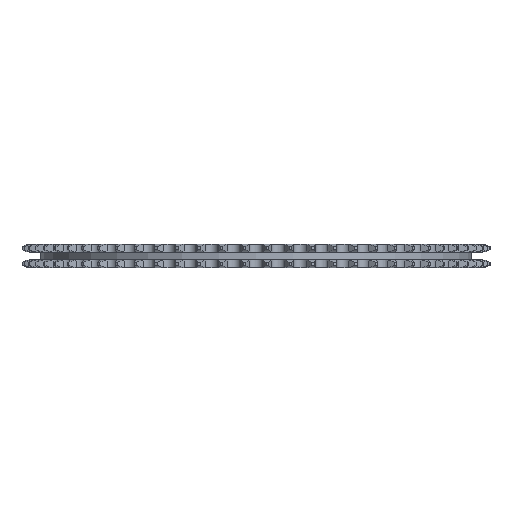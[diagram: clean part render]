
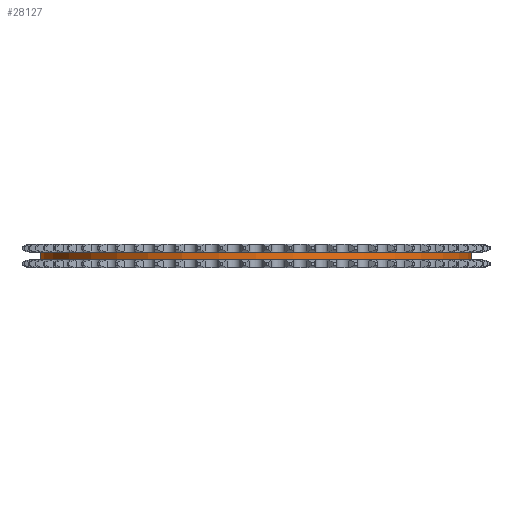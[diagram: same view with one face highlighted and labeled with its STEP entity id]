
A CAD part, left-side view. The second image highlights one B-rep face of the part: STEP entity #28127.
In plain terms, the highlighted cylindrical face has radius 76.52 mm (diameter 153.04 mm), a partial arc.
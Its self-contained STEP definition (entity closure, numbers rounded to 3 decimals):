
#5772=DIRECTION('',(0.,0.,-1.));
#5773=VECTOR('',#5772,2.7);
#5774=CARTESIAN_POINT('',(0.,76.52,1.35));
#5775=LINE('',#5774,#5773);
#5779=CARTESIAN_POINT('',(0.,0.,1.35));
#5780=DIRECTION('',(0.,0.,1.));
#5781=DIRECTION('',(0.,1.,0.));
#5782=AXIS2_PLACEMENT_3D('',#5779,#5780,#5781);
#5787=DIRECTION('',(0.,0.,-1.));
#5788=VECTOR('',#5787,2.7);
#5789=CARTESIAN_POINT('',(0.,-76.52,1.35));
#5790=LINE('',#5789,#5788);
#5794=CARTESIAN_POINT('',(0.,0.,-1.35));
#5795=DIRECTION('',(0.,0.,1.));
#5796=DIRECTION('',(0.,1.,0.));
#5797=AXIS2_PLACEMENT_3D('',#5794,#5795,#5796);
#22380=CARTESIAN_POINT('',(0.,76.52,1.35));
#22381=CARTESIAN_POINT('',(0.,76.52,-1.35));
#22382=VERTEX_POINT('',#22380);
#22383=VERTEX_POINT('',#22381);
#22384=CARTESIAN_POINT('',(0.,-76.52,1.35));
#22385=CARTESIAN_POINT('',(0.,-76.52,-1.35));
#22386=VERTEX_POINT('',#22384);
#22387=VERTEX_POINT('',#22385);
#28115=CARTESIAN_POINT('',(0.,0.,1.485));
#28116=DIRECTION('',(0.,0.,-1.));
#28117=DIRECTION('',(0.,-1.,0.));
#28118=AXIS2_PLACEMENT_3D('',#28115,#28116,#28117);
#28119=CYLINDRICAL_SURFACE('',#28118,76.52);
#28120=ORIENTED_EDGE('',*,*,#28105,.F.);
#28121=ORIENTED_EDGE('',*,*,#28095,.T.);
#28122=ORIENTED_EDGE('',*,*,#28109,.T.);
#28124=ORIENTED_EDGE('',*,*,#28123,.F.);
#28125=EDGE_LOOP('',(#28120,#28121,#28122,#28124));
#28126=FACE_OUTER_BOUND('',#28125,.F.);
#28127=ADVANCED_FACE('',(#28126),#28119,.T.);
#5783=CIRCLE('',#5782,76.52);
#5798=CIRCLE('',#5797,76.52);
#28095=EDGE_CURVE('',#22382,#22386,#5783,.T.);
#28105=EDGE_CURVE('',#22382,#22383,#5775,.T.);
#28109=EDGE_CURVE('',#22386,#22387,#5790,.T.);
#28123=EDGE_CURVE('',#22383,#22387,#5798,.T.);
